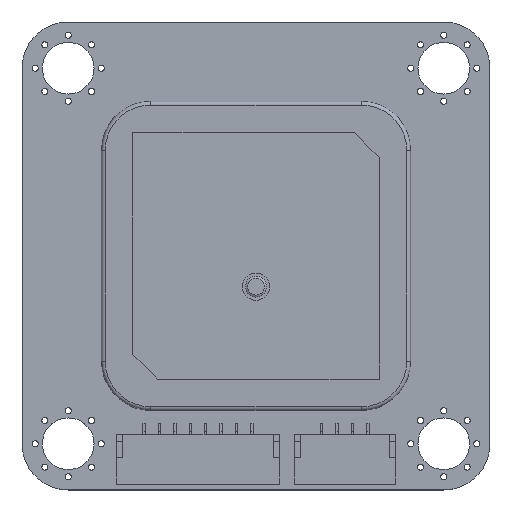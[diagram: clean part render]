
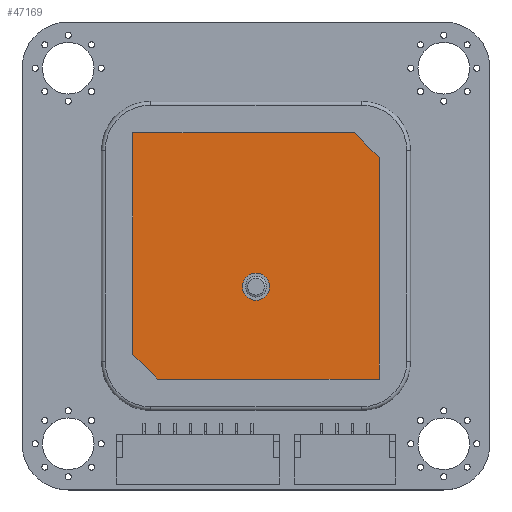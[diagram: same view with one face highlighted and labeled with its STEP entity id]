
A CAD part, top view. The second image highlights one B-rep face of the part: STEP entity #47169.
In plain terms, the highlighted planar face has unit normal (0, 0, 1) as drawn and (0, 1, 0) by its records, which use the part's own axes.
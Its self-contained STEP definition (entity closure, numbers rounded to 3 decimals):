
#2235=CIRCLE('',#49919,1.1);
#3131=FACE_BOUND('',#6401,.T.);
#3814=FACE_OUTER_BOUND('',#6400,.T.);
#6400=EDGE_LOOP('',(#32899,#32900,#32901,#32902,#32903,#32904));
#6401=EDGE_LOOP('',(#32905));
#10064=LINE('',#64639,#15006);
#10067=LINE('',#64645,#15009);
#10070=LINE('',#64651,#15012);
#10073=LINE('',#64657,#15015);
#10076=LINE('',#64663,#15018);
#10079=LINE('',#64667,#15021);
#15006=VECTOR('',#54383,1.);
#15009=VECTOR('',#54388,1.);
#15012=VECTOR('',#54393,1.);
#15015=VECTOR('',#54398,1.);
#15018=VECTOR('',#54403,1.);
#15021=VECTOR('',#54408,1.);
#19440=VERTEX_POINT('',#64629);
#19443=VERTEX_POINT('',#64636);
#19444=VERTEX_POINT('',#64638);
#19446=VERTEX_POINT('',#64644);
#19448=VERTEX_POINT('',#64650);
#19450=VERTEX_POINT('',#64656);
#19452=VERTEX_POINT('',#64662);
#24488=EDGE_CURVE('',#19440,#19440,#2235,.T.);
#24491=EDGE_CURVE('',#19444,#19443,#10064,.T.);
#24494=EDGE_CURVE('',#19446,#19444,#10067,.T.);
#24497=EDGE_CURVE('',#19448,#19446,#10070,.T.);
#24500=EDGE_CURVE('',#19450,#19448,#10073,.T.);
#24503=EDGE_CURVE('',#19452,#19450,#10076,.T.);
#24506=EDGE_CURVE('',#19443,#19452,#10079,.T.);
#32899=ORIENTED_EDGE('',*,*,#24491,.T.);
#32900=ORIENTED_EDGE('',*,*,#24506,.T.);
#32901=ORIENTED_EDGE('',*,*,#24503,.T.);
#32902=ORIENTED_EDGE('',*,*,#24500,.T.);
#32903=ORIENTED_EDGE('',*,*,#24497,.T.);
#32904=ORIENTED_EDGE('',*,*,#24494,.T.);
#32905=ORIENTED_EDGE('',*,*,#24488,.F.);
#44217=PLANE('',#49926);
#47169=ADVANCED_FACE('',(#3814,#3131),#44217,.T.);
#49919=AXIS2_PLACEMENT_3D('',#64631,#54377,#54378);
#49926=AXIS2_PLACEMENT_3D('',#64668,#54409,#54410);
#54377=DIRECTION('center_axis',(0.,1.,0.));
#54378=DIRECTION('ref_axis',(0.,0.,1.));
#54383=DIRECTION('',(0.,0.,1.));
#54388=DIRECTION('',(-1.,0.,0.));
#54393=DIRECTION('',(-0.707,0.,-0.707));
#54398=DIRECTION('',(0.,0.,-1.));
#54403=DIRECTION('',(1.,0.,0.));
#54408=DIRECTION('',(0.707,0.,0.707));
#54409=DIRECTION('center_axis',(0.,1.,0.));
#54410=DIRECTION('ref_axis',(0.,0.,1.));
#64629=CARTESIAN_POINT('',(0.,4.,1.4));
#64631=CARTESIAN_POINT('Origin',(0.,4.,2.5));
#64636=CARTESIAN_POINT('',(-10.,4.,8.));
#64638=CARTESIAN_POINT('',(-10.,4.,-10.));
#64639=CARTESIAN_POINT('',(-10.,4.,8.));
#64644=CARTESIAN_POINT('',(8.,4.,-10.));
#64645=CARTESIAN_POINT('',(8.,4.,-10.));
#64650=CARTESIAN_POINT('',(10.,4.,-8.));
#64651=CARTESIAN_POINT('',(10.,4.,-8.));
#64656=CARTESIAN_POINT('',(10.,4.,10.));
#64657=CARTESIAN_POINT('',(10.,4.,10.));
#64662=CARTESIAN_POINT('',(-8.,4.,10.));
#64663=CARTESIAN_POINT('',(10.,4.,10.));
#64667=CARTESIAN_POINT('',(-8.,4.,10.));
#64668=CARTESIAN_POINT('Origin',(0.,4.,0.));
